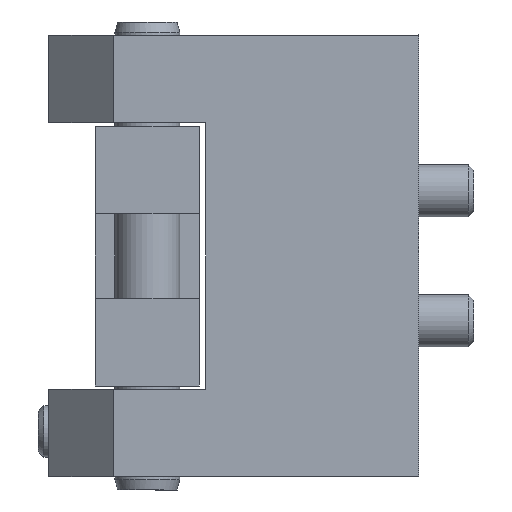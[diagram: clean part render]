
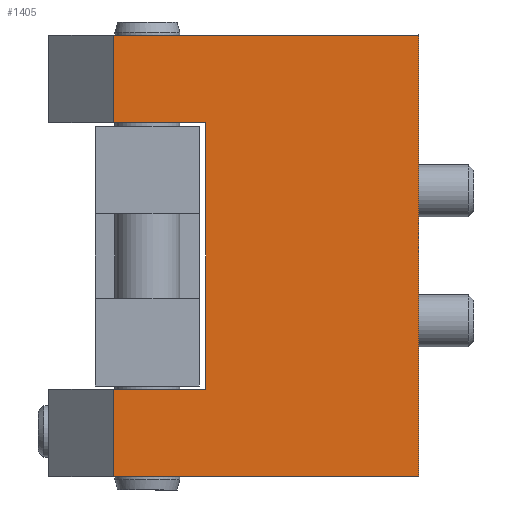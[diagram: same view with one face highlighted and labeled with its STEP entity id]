
A CAD part, left-side view. The second image highlights one B-rep face of the part: STEP entity #1405.
In plain terms, the highlighted planar face has unit normal (-1, 0, 0).
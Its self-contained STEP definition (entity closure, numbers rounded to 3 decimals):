
#145=LINE('',#2207,#243);
#147=LINE('',#2284,#245);
#152=LINE('',#2300,#250);
#155=LINE('',#2307,#253);
#156=LINE('',#2309,#254);
#157=LINE('',#2311,#255);
#158=LINE('',#2312,#256);
#159=LINE('',#2313,#257);
#243=VECTOR('',#1747,23.478);
#245=VECTOR('',#1753,34.);
#250=VECTOR('',#1766,23.478);
#253=VECTOR('',#1771,7.1);
#254=VECTOR('',#1772,20.5);
#255=VECTOR('',#1773,7.1);
#256=VECTOR('',#1774,6.75);
#257=VECTOR('',#1775,6.75);
#333=PLANE('',#1526);
#400=FACE_OUTER_BOUND('',#500,.T.);
#500=EDGE_LOOP('',(#1073,#1074,#1075,#1076,#1077,#1078,#1079,#1080));
#678=VERTEX_POINT('',#2197);
#682=VERTEX_POINT('',#2205);
#687=VERTEX_POINT('',#2283);
#694=VERTEX_POINT('',#2299);
#696=VERTEX_POINT('',#2305);
#697=VERTEX_POINT('',#2306);
#698=VERTEX_POINT('',#2308);
#699=VERTEX_POINT('',#2310);
#824=EDGE_CURVE('',#678,#682,#145,.T.);
#829=EDGE_CURVE('',#687,#678,#147,.T.);
#837=EDGE_CURVE('',#694,#687,#152,.T.);
#840=EDGE_CURVE('',#696,#697,#155,.T.);
#841=EDGE_CURVE('',#697,#698,#156,.T.);
#842=EDGE_CURVE('',#698,#699,#157,.T.);
#843=EDGE_CURVE('',#694,#699,#158,.T.);
#844=EDGE_CURVE('',#696,#682,#159,.T.);
#1073=ORIENTED_EDGE('',*,*,#840,.T.);
#1074=ORIENTED_EDGE('',*,*,#841,.T.);
#1075=ORIENTED_EDGE('',*,*,#842,.T.);
#1076=ORIENTED_EDGE('',*,*,#843,.F.);
#1077=ORIENTED_EDGE('',*,*,#837,.T.);
#1078=ORIENTED_EDGE('',*,*,#829,.T.);
#1079=ORIENTED_EDGE('',*,*,#824,.T.);
#1080=ORIENTED_EDGE('',*,*,#844,.F.);
#1405=ADVANCED_FACE('',(#400),#333,.T.);
#1526=AXIS2_PLACEMENT_3D('',#2304,#1769,#1770);
#1747=DIRECTION('',(0.,1.,0.));
#1753=DIRECTION('',(0.,0.,1.));
#1766=DIRECTION('',(0.,-1.,0.));
#1769=DIRECTION('center_axis',(-1.,0.,0.));
#1770=DIRECTION('ref_axis',(0.,0.,1.));
#1771=DIRECTION('',(0.,-1.,0.));
#1772=DIRECTION('',(0.,0.,-1.));
#1773=DIRECTION('',(0.,1.,0.));
#1774=DIRECTION('',(0.,0.,1.));
#1775=DIRECTION('',(0.,0.,1.));
#2197=CARTESIAN_POINT('',(-38.,70.399,17.));
#2205=CARTESIAN_POINT('',(-38.,93.877,17.));
#2207=CARTESIAN_POINT('',(-38.,93.877,17.));
#2283=CARTESIAN_POINT('',(-38.,70.399,-17.));
#2284=CARTESIAN_POINT('',(-38.,70.399,0.));
#2299=CARTESIAN_POINT('',(-38.,93.877,-17.));
#2300=CARTESIAN_POINT('',(-38.,93.877,-17.));
#2304=CARTESIAN_POINT('Origin',(-38.,70.399,0.));
#2305=CARTESIAN_POINT('',(-38.,93.877,10.25));
#2306=CARTESIAN_POINT('',(-38.,86.777,10.25));
#2307=CARTESIAN_POINT('',(-38.,79.399,10.25));
#2308=CARTESIAN_POINT('',(-38.,86.777,-10.25));
#2309=CARTESIAN_POINT('',(-38.,86.777,0.));
#2310=CARTESIAN_POINT('',(-38.,93.877,-10.25));
#2311=CARTESIAN_POINT('',(-38.,79.399,-10.25));
#2312=CARTESIAN_POINT('',(-38.,93.877,0.));
#2313=CARTESIAN_POINT('',(-38.,93.877,0.));
